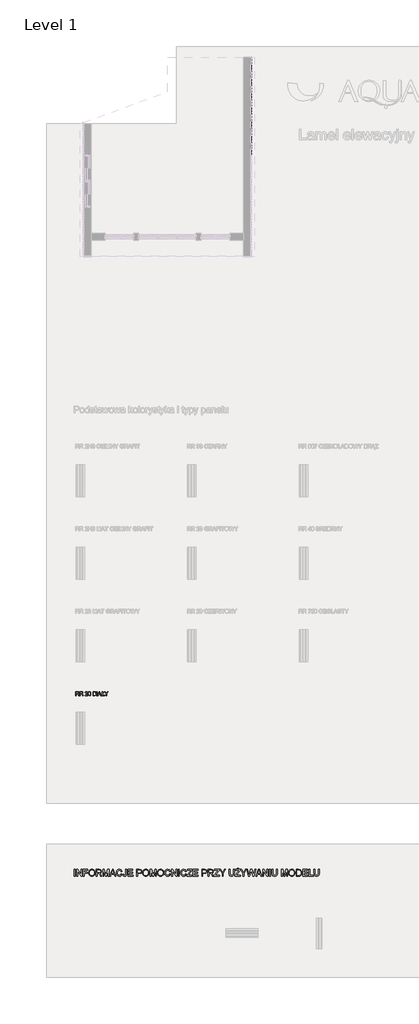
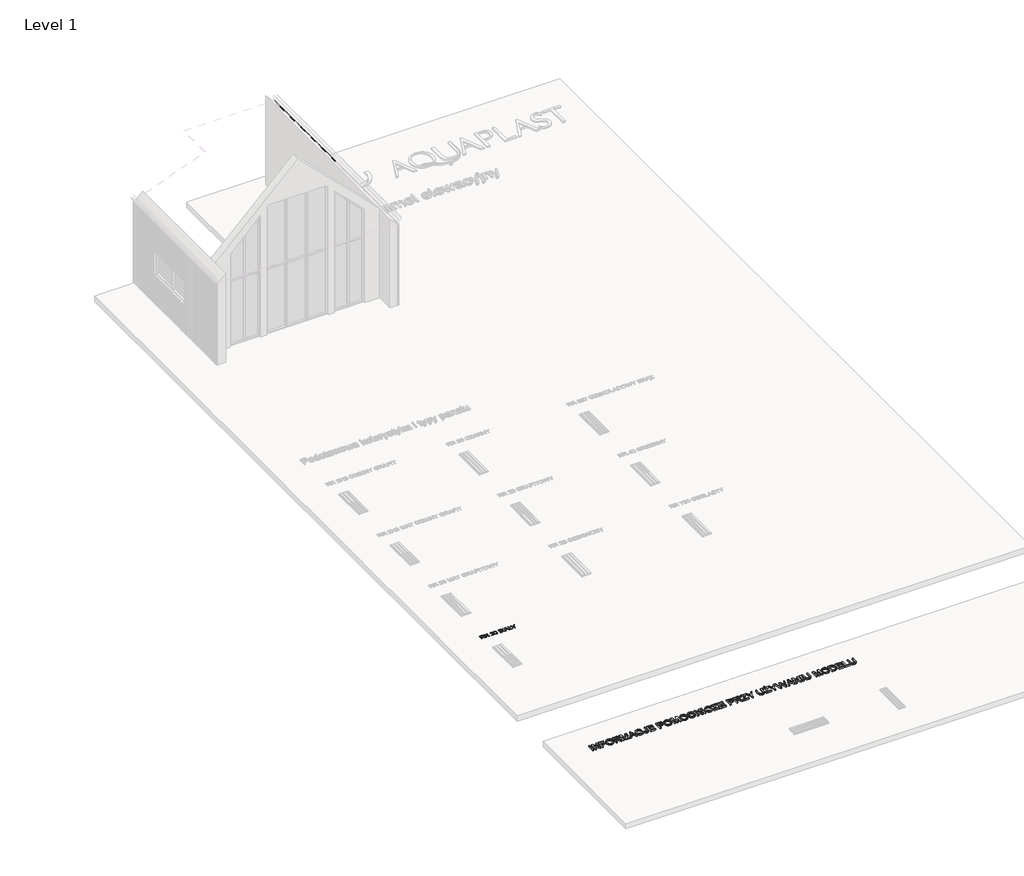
# One storey, part 3 of 9: 14 proxies.
"""IFC4 building model written with IfcOpenShell, lengths in millimetres."""

from ifc_helpers import new_model, si_unit, frame, origin, place, context, project, spatial, polyline, outline, extrude, transform, mapped, element, save
from components import specialty_equipment_518246cd, specialty_equipment_f18af2c6

model = new_model("IFC4")

# Units and contexts
model_context = context("Model", 3, world=origin())
ifc_project = project(units=[si_unit("LENGTHUNIT", "METRE", prefix="MILLI")], contexts=[model_context])

# Site, building, storey
site = spatial("IfcSite", under=ifc_project)
building = spatial("IfcBuilding", under=site)
storey = spatial("IfcBuildingStorey", under=building, Name="Level 1", Elevation=0.0)

# Proxies
placement = place(None, origin())
specialty_equipment_shape = specialty_equipment_518246cd(model_context)
element("IfcBuildingElementProxy", 1, Name="AQUAPLAST - Lamel elewacyjny : Lamel elewacyjny", ObjectType="AQUAPLAST - Lamel elewacyjny : Lamel elewacyjny", at=placement, inside=storey, context=model_context, shape_type="MappedRepresentation", body=[
    mapped(specialty_equipment_shape, transform((-2152.063183, 12666.3302878, 600.0), x_axis=(0.0, 1.0, 0.0), y_axis=(0.0, 0.0, 1.0), z_axis=(1.0, 0.0, 0.0))),
])
element("IfcBuildingElementProxy", 2, Name="AQUAPLAST - Lamel elewacyjny : Lamel elewacyjny", ObjectType="AQUAPLAST - Lamel elewacyjny : Lamel elewacyjny", at=placement, inside=storey, context=model_context, shape_type="MappedRepresentation", body=[
    mapped(specialty_equipment_shape, transform((-2152.063183, 12986.3302878, 600.0), x_axis=(0.0, 1.0, 0.0), y_axis=(0.0, 0.0, 1.0), z_axis=(1.0, 0.0, 0.0))),
])
element("IfcBuildingElementProxy", 3, Name="AQUAPLAST - Lamel elewacyjny : Lamel elewacyjny", ObjectType="AQUAPLAST - Lamel elewacyjny : Lamel elewacyjny", at=placement, inside=storey, context=model_context, shape_type="MappedRepresentation", body=[
    mapped(specialty_equipment_shape, transform((-2152.063183, 13306.3302878, 600.0), x_axis=(0.0, 1.0, 0.0), y_axis=(0.0, 0.0, 1.0), z_axis=(1.0, 0.0, 0.0))),
])
element("IfcBuildingElementProxy", 4, Name="AQUAPLAST - Lamel elewacyjny : Lamel elewacyjny", ObjectType="AQUAPLAST - Lamel elewacyjny : Lamel elewacyjny", at=placement, inside=storey, context=model_context, shape_type="MappedRepresentation", body=[
    mapped(specialty_equipment_shape, transform((-2152.063183, 13626.3302878, 600.0), x_axis=(0.0, 1.0, 0.0), y_axis=(0.0, 0.0, 1.0), z_axis=(1.0, 0.0, 0.0))),
])
element("IfcBuildingElementProxy", 5, Name="AQUAPLAST - Lamel elewacyjny : Lamel elewacyjny", ObjectType="AQUAPLAST - Lamel elewacyjny : Lamel elewacyjny", at=placement, inside=storey, context=model_context, shape_type="MappedRepresentation", body=[
    mapped(specialty_equipment_shape, transform((-2152.063183, 13946.3302878, 600.0), x_axis=(0.0, 1.0, 0.0), y_axis=(0.0, 0.0, 1.0), z_axis=(1.0, 0.0, 0.0))),
])
element("IfcBuildingElementProxy", 6, Name="AQUAPLAST - Lamel elewacyjny : Lamel elewacyjny", ObjectType="AQUAPLAST - Lamel elewacyjny : Lamel elewacyjny", at=placement, inside=storey, context=model_context, shape_type="MappedRepresentation", body=[
    mapped(specialty_equipment_shape, transform((-2152.063183, 14266.3302878, 600.0), x_axis=(0.0, 1.0, 0.0), y_axis=(0.0, 0.0, 1.0), z_axis=(1.0, 0.0, 0.0))),
])
element("IfcBuildingElementProxy", 7, Name="AQUAPLAST - Lamel elewacyjny : Lamel elewacyjny", ObjectType="AQUAPLAST - Lamel elewacyjny : Lamel elewacyjny", at=placement, inside=storey, context=model_context, shape_type="MappedRepresentation", body=[
    mapped(specialty_equipment_shape, transform((-2152.063183, 14586.3302878, 600.0), x_axis=(0.0, 1.0, 0.0), y_axis=(0.0, 0.0, 1.0), z_axis=(1.0, 0.0, 0.0))),
])
element("IfcBuildingElementProxy", 8, Name="AQUAPLAST - Lamel elewacyjny : Lamel elewacyjny", ObjectType="AQUAPLAST - Lamel elewacyjny : Lamel elewacyjny", at=placement, inside=storey, context=model_context, shape_type="MappedRepresentation", body=[
    mapped(specialty_equipment_shape, transform((-2152.063183, 14906.3302878, 600.0), x_axis=(0.0, 1.0, 0.0), y_axis=(0.0, 0.0, 1.0), z_axis=(1.0, 0.0, 0.0))),
])
element("IfcBuildingElementProxy", 9, Name="AQUAPLAST - Lamel elewacyjny : Lamel elewacyjny", ObjectType="AQUAPLAST - Lamel elewacyjny : Lamel elewacyjny", at=placement, inside=storey, context=model_context, shape_type="MappedRepresentation", body=[
    mapped(specialty_equipment_shape, transform((-2152.063183, 15226.3302878, 600.0), x_axis=(0.0, 1.0, 0.0), y_axis=(0.0, 0.0, 1.0), z_axis=(1.0, 0.0, 0.0))),
])
element("IfcBuildingElementProxy", 10, Name="AQUAPLAST - Lamel elewacyjny : Lamel elewacyjny", ObjectType="AQUAPLAST - Lamel elewacyjny : Lamel elewacyjny", at=placement, inside=storey, context=model_context, shape_type="MappedRepresentation", body=[
    mapped(specialty_equipment_shape, transform((-2152.063183, 15546.3302878, 600.0), x_axis=(0.0, 1.0, 0.0), y_axis=(0.0, 0.0, 1.0), z_axis=(1.0, 0.0, 0.0))),
])
element("IfcBuildingElementProxy", 11, Name="AQUAPLAST - Lamel elewacyjny : Lamel elewacyjny", ObjectType="AQUAPLAST - Lamel elewacyjny : Lamel elewacyjny", at=placement, inside=storey, context=model_context, shape_type="MappedRepresentation", body=[
    mapped(specialty_equipment_shape, transform((-2152.063183, 15866.3302878, 600.0), x_axis=(0.0, 1.0, 0.0), y_axis=(0.0, 0.0, 1.0), z_axis=(1.0, 0.0, 0.0))),
])
specialty_equipment_2_shape = specialty_equipment_f18af2c6(model_context)
element("IfcBuildingElementProxy", 12, Name="AQUAPLAST - Lamel elewacyjny : Lamel elewacyjny", ObjectType="AQUAPLAST - Lamel elewacyjny : Lamel elewacyjny", at=placement, inside=storey, context=model_context, shape_type="MappedRepresentation", body=[
    mapped(specialty_equipment_2_shape, transform((-2152.063183, 16186.3302878, 600.0), x_axis=(0.0, 1.0, 0.0), y_axis=(0.0, 0.0, 1.0), z_axis=(1.0, 0.0, 0.0))),
])
element("IfcBuildingElementProxy", 13, Name="150", ObjectType="150", at=placement, inside=storey, context=model_context, shape_type="SweptSolid", body=[
    extrude(outline(polyline([(-8736.4118342, -7835.6514112), (-8736.4118342, -7684.966946), (-8671.4806621, -7684.966946), (-8641.3327325, -7689.032042), (-8632.0529092, -7694.6606365), (-8624.8516192, -7703.416228), (-8620.2301016, -7714.2733454), (-8618.6895957, -7726.2065176), (-8621.2417771, -7741.0505561), (-8628.8983211, -7753.3562089), (-8641.8891541, -7762.3785148), (-8660.4442022, -7767.3725129), (-8649.7388361, -7775.4291286), (-8634.4717333, -7794.8165097), (-8609.3453931, -7835.6514112), (-8631.2343718, -7835.6514112), (-8650.8424821, -7804.4182298), (-8665.0059389, -7783.7432617), (-8674.9571469, -7773.9759947), (-8683.9150735, -7770.3891452), (-8694.8411687, -7769.7269577), (-8717.576276, -7769.7269577), (-8717.576276, -7835.6514112), (-8736.4118342, -7835.6514112)]), holes=[polyline([(-8717.576276, -7750.8913995), (-8675.4169994, -7750.8913995), (-8653.9142968, -7748.224255), (-8641.7006145, -7739.6893927), (-8637.5251539, -7726.9054934), (-8639.5163152, -7717.7176406), (-8645.4897991, -7710.3140154), (-8655.7675023, -7705.4303819), (-8670.6713217, -7703.8025041), (-8717.576276, -7703.8025041), (-8717.576276, -7750.8913995)])]), frame((0.0, 0.0, 600.0), z_axis=(0.0, 0.0, 1.0), x_axis=(1.0, 0.0, 0.0)), (0.0, 0.0, 1.0), 10.0),
    extrude(outline(polyline([(-8585.727369, -7835.6514112), (-8585.727369, -7684.966946), (-8520.7961968, -7684.966946), (-8490.6482673, -7689.032042), (-8481.368444, -7694.6606365), (-8474.1671539, -7703.416228), (-8469.5456364, -7714.2733454), (-8468.0051305, -7726.2065176), (-8470.5573119, -7741.0505561), (-8478.2138559, -7753.3562089), (-8491.2046888, -7762.3785148), (-8509.759737, -7767.3725129), (-8499.0543709, -7775.4291286), (-8483.7872681, -7794.8165097), (-8458.6609278, -7835.6514112), (-8480.5499066, -7835.6514112), (-8500.1580169, -7804.4182298), (-8514.3214737, -7783.7432617), (-8524.2726817, -7773.9759947), (-8533.2306083, -7770.3891452), (-8544.1567035, -7769.7269577), (-8566.8918108, -7769.7269577), (-8566.8918108, -7835.6514112), (-8585.727369, -7835.6514112)]), holes=[polyline([(-8566.8918108, -7750.8913995), (-8524.7325342, -7750.8913995), (-8503.2298316, -7748.224255), (-8491.0161493, -7739.6893927), (-8486.8406887, -7726.9054934), (-8488.83185, -7717.7176406), (-8494.8053339, -7710.3140154), (-8505.0830371, -7705.4303819), (-8519.9868564, -7703.8025041), (-8566.8918108, -7703.8025041), (-8566.8918108, -7750.8913995)])]), frame((0.0, 0.0, 600.0), z_axis=(0.0, 0.0, 1.0), x_axis=(1.0, 0.0, 0.0)), (0.0, 0.0, 1.0), 10.0),
    extrude(outline(polyline([(-8286.7128833, -7816.815853), (-8286.7128833, -7835.6514112), (-8385.5995636, -7835.6514112), (-8383.5762126, -7822.6651768), (-8372.1166885, -7802.6707903), (-8348.5170585, -7780.8369939), (-8316.0146842, -7749.4566597), (-8309.9308357, -7738.6409291), (-8307.9028862, -7728.119504), (-8309.8204711, -7718.6879293), (-8315.5732258, -7710.8474443), (-8324.4161893, -7705.5637392), (-8335.6044005, -7703.8025041), (-8347.3536317, -7705.5223524), (-8356.4817037, -7710.6818974), (-8362.3724141, -7718.8764689), (-8364.4095607, -7729.7013966), (-8383.2451188, -7727.3469518), (-8378.6787836, -7709.127596), (-8368.8057505, -7695.8194648), (-8354.1410545, -7687.6800757), (-8335.1997303, -7684.966946), (-8316.1204503, -7687.9835783), (-8301.4833454, -7697.0334754), (-8292.1713324, -7710.5531387), (-8289.0673281, -7726.9790698), (-8292.4150542, -7744.8397407), (-8303.5434846, -7763.3074168), (-8330.5276289, -7789.1143388), (-8352.1958784, -7807.2325271), (-8360.6939525, -7816.815853), (-8286.7128833, -7816.815853)])), frame((0.0, 0.0, 600.0), z_axis=(0.0, 0.0, 1.0), x_axis=(1.0, 0.0, 0.0)), (0.0, 0.0, 1.0), 10.0),
    extrude(outline(polyline([(-8267.8773251, -7761.5231892), (-8266.4931691, -7737.4039259), (-8262.3407011, -7718.168296), (-8255.4613078, -7703.5219941), (-8245.8963759, -7693.1707145), (-8233.5769276, -7687.0178881), (-8218.433985, -7684.966946), (-8196.4346417, -7689.8229883), (-8181.2411153, -7703.8208982), (-8172.4119474, -7726.1145471), (-8168.9906448, -7761.5231892), (-8170.3610053, -7785.5044967), (-8174.4720866, -7804.6941413), (-8181.3100932, -7819.3542388), (-8190.8612295, -7829.7469052), (-8203.2082689, -7835.9411183), (-8218.433985, -7838.005856), (-8238.0053071, -7834.4190065), (-8252.8677397, -7823.6584581), (-8264.1249288, -7798.1734329), (-8267.8773251, -7761.5231892)]), holes=[polyline([(-8249.041767, -7761.486401), (-8246.834475, -7791.1146971), (-8240.2125991, -7808.2625966), (-8230.3533616, -7816.4433725), (-8218.433985, -7819.1702978), (-8206.5146083, -7816.4341755), (-8196.6553709, -7808.2258084), (-8190.033495, -7791.0687119), (-8187.826203, -7761.486401), (-8189.9599186, -7732.5248909), (-8196.3610653, -7715.2436342), (-8206.2019087, -7706.6627866), (-8218.6547142, -7703.8025041), (-8230.4453321, -7706.3224958), (-8239.9182935, -7713.8824708), (-8246.7608986, -7732.2397823), (-8249.041767, -7761.486401)])]), frame((0.0, 0.0, 600.0), z_axis=(0.0, 0.0, 1.0), x_axis=(1.0, 0.0, 0.0)), (0.0, 0.0, 1.0), 10.0),
    extrude(outline(polyline([(-8086.5850779, -7835.6514112), (-8086.5850779, -7684.966946), (-8029.0851221, -7684.966946), (-8000.9237553, -7689.399924), (-7991.459991, -7695.02392), (-7984.2954892, -7703.0299519), (-7978.2806185, -7722.3069685), (-7983.338996, -7739.9101219), (-7998.6244929, -7753.2458443), (-7987.9513165, -7758.8192565), (-7980.0648462, -7767.2989365), (-7975.1950083, -7778.1238642), (-7973.571729, -7790.7330196), (-7978.004707, -7810.9849234), (-7988.9859846, -7825.4058976), (-8005.3751275, -7833.0578431), (-8029.5265805, -7835.6514112), (-8086.5850779, -7835.6514112)]), holes=[polyline([(-8067.7495198, -7746.18251), (-8033.3525532, -7746.18251), (-8013.2661963, -7744.5638292), (-8001.1812727, -7737.5924654), (-7997.1161767, -7725.3236008), (-8000.9053612, -7713.0363422), (-8011.7578801, -7705.7706728), (-8035.9645154, -7703.8025041), (-8067.7495198, -7703.8025041), (-8067.7495198, -7746.18251)]), polyline([(-8067.7495198, -7816.815853), (-8029.1219103, -7816.815853), (-8015.1423945, -7816.080089), (-8003.3149883, -7811.9782048), (-7995.4791018, -7803.6088894), (-7992.4072872, -7790.9169606), (-7996.0125307, -7776.2752572), (-8007.6927841, -7767.5380598), (-8030.9613203, -7765.0180681), (-8067.7495198, -7765.0180681), (-8067.7495198, -7816.815853)])]), frame((0.0, 0.0, 600.0), z_axis=(0.0, 0.0, 1.0), x_axis=(1.0, 0.0, 0.0)), (0.0, 0.0, 1.0), 10.0),
    extrude(outline(polyline([(-7945.3183918, -7835.6514112), (-7945.3183918, -7684.966946), (-7926.4828336, -7684.966946), (-7926.4828336, -7835.6514112), (-7945.3183918, -7835.6514112)])), frame((0.0, 0.0, 600.0), z_axis=(0.0, 0.0, 1.0), x_axis=(1.0, 0.0, 0.0)), (0.0, 0.0, 1.0), 10.0),
    extrude(outline(polyline([(-7906.3229003, -7835.6514112), (-7846.1741941, -7684.966946), (-7830.1345391, -7684.966946), (-7770.0226211, -7835.6514112), (-7789.925037, -7835.6514112), (-7807.1419144, -7788.5625158), (-7869.2403952, -7788.5625158), (-7886.4572725, -7835.6514112), (-7906.3229003, -7835.6514112)]), holes=[polyline([(-7862.3242137, -7769.7269577), (-7814.0213077, -7769.7269577), (-7827.6329415, -7732.6812407), (-7838.1911548, -7703.8025041), (-7847.5721457, -7729.4438792), (-7862.3242137, -7769.7269577)])]), frame((0.0, 0.0, 600.0), z_axis=(0.0, 0.0, 1.0), x_axis=(1.0, 0.0, 0.0)), (0.0, 0.0, 1.0), 10.0),
    extrude(outline(polyline([(-7747.5450312, -7776.0177398), (-7764.0261446, -7789.7397382), (-7764.0261446, -7770.90418), (-7747.5450312, -7757.1821816), (-7747.5450312, -7684.966946), (-7728.709473, -7684.966946), (-7728.709473, -7741.4736204), (-7693.3928015, -7712.0430608), (-7693.3928015, -7730.878619), (-7728.709473, -7760.3091786), (-7728.709473, -7816.815853), (-7653.3672404, -7816.815853), (-7653.3672404, -7835.6514112), (-7747.5450312, -7835.6514112), (-7747.5450312, -7776.0177398)])), frame((0.0, 0.0, 600.0), z_axis=(0.0, 0.0, 1.0), x_axis=(1.0, 0.0, 0.0)), (0.0, 0.0, 1.0), 10.0),
    extrude(outline(polyline([(-7592.1516764, -7835.6514112), (-7592.1516764, -7771.823885), (-7651.0127956, -7684.966946), (-7628.8295113, -7684.966946), (-7597.4123889, -7731.3568656), (-7581.3359457, -7755.048466), (-7565.1859262, -7729.6646084), (-7536.6750715, -7684.966946), (-7514.454999, -7684.966946), (-7573.3161183, -7771.823885), (-7573.3161183, -7835.6514112), (-7592.1516764, -7835.6514112)])), frame((0.0, 0.0, 600.0), z_axis=(0.0, 0.0, 1.0), x_axis=(1.0, 0.0, 0.0)), (0.0, 0.0, 1.0), 10.0),
])
element("IfcBuildingElementProxy", 14, Name="250", ObjectType="250", at=placement, inside=storey, context=model_context, shape_type="SweptSolid", body=[
    extrude(outline(polyline([(-8793.2713947, -14626.8895255), (-8793.2713947, -14375.7487501), (-8761.8787978, -14375.7487501), (-8761.8787978, -14626.8895255), (-8793.2713947, -14626.8895255)])), frame((0.0, 0.0, 600.0), z_axis=(0.0, 0.0, 1.0), x_axis=(1.0, 0.0, 0.0)), (0.0, 0.0, 1.0), 50.0),
    extrude(outline(polyline([(-8699.0936039, -14626.8895255), (-8699.0936039, -14375.7487501), (-8665.493715, -14375.7487501), (-8534.2824701, -14574.7115958), (-8534.2824701, -14375.7487501), (-8502.8898732, -14375.7487501), (-8502.8898732, -14626.8895255), (-8536.4897621, -14626.8895255), (-8667.701007, -14427.8653661), (-8667.701007, -14626.8895255), (-8699.0936039, -14626.8895255)])), frame((0.0, 0.0, 600.0), z_axis=(0.0, 0.0, 1.0), x_axis=(1.0, 0.0, 0.0)), (0.0, 0.0, 1.0), 50.0),
    extrude(outline(polyline([(-8447.9528286, -14626.8895255), (-8447.9528286, -14375.7487501), (-8279.2176201, -14375.7487501), (-8279.2176201, -14407.141347), (-8416.5602316, -14407.141347), (-8416.5602316, -14481.6987647), (-8298.8379932, -14481.6987647), (-8298.8379932, -14513.0913616), (-8416.5602316, -14513.0913616), (-8416.5602316, -14626.8895255), (-8447.9528286, -14626.8895255)])), frame((0.0, 0.0, 600.0), z_axis=(0.0, 0.0, 1.0), x_axis=(1.0, 0.0, 0.0)), (0.0, 0.0, 1.0), 50.0),
    extrude(outline(polyline([(-8247.8250232, -14504.6300758), (-8245.7326943, -14475.1726914), (-8239.4557078, -14449.0952229), (-8228.9940635, -14426.3976702), (-8214.3477616, -14407.0800334), (-8196.3943538, -14391.6558143), (-8176.011392, -14380.638515), (-8153.1988762, -14374.0281354), (-8127.9568064, -14371.8246755), (-8095.0160394, -14375.9633479), (-8065.4781809, -14388.3793653), (-8040.9527146, -14408.1990078), (-8023.0491241, -14434.5485557), (-8012.1046348, -14466.1557504), (-8008.4564716, -14501.7483335), (-8012.29624, -14537.8160974), (-8023.8155449, -14569.8678162), (-8042.3782573, -14596.2633494), (-8067.3482477, -14615.3625563), (-8096.6331874, -14626.9508392), (-8128.1407474, -14630.8136001), (-8161.5873521, -14626.5446361), (-8191.2938232, -14613.7377442), (-8215.7579759, -14593.5502197), (-8233.4776254, -14567.1393581), (-8244.2381737, -14536.7507725), (-8247.8250232, -14504.6300758)]), holes=[polyline([(-8216.4324263, -14504.9366441), (-8214.8631796, -14525.7488015), (-8210.1554397, -14544.2233755), (-8202.3092065, -14560.3603659), (-8191.3244801, -14574.1597728), (-8177.9715133, -14585.2115611), (-8163.0205591, -14593.1056956), (-8146.4716175, -14597.8421763), (-8128.3246884, -14599.4210032), (-8109.8673589, -14597.8268479), (-8093.12298, -14593.0443819), (-8078.0915516, -14585.0736054), (-8064.7730737, -14573.9145182), (-8053.8688215, -14559.8238713), (-8046.0800699, -14543.0584158), (-8041.4068189, -14523.6181517), (-8039.8490686, -14501.5030788), (-8042.516213, -14473.7126597), (-8050.5176464, -14449.6930311), (-8063.6464351, -14430.0496654), (-8081.6956455, -14415.3880351), (-8103.4696611, -14406.2599631), (-8127.7728654, -14403.2172724), (-8161.5413669, -14409.0803917), (-8190.2514909, -14426.6697496), (-8201.7056501, -14440.3561095), (-8209.8871924, -14457.9627118), (-8214.7961178, -14479.4895567), (-8216.4324263, -14504.9366441)])]), frame((0.0, 0.0, 600.0), z_axis=(0.0, 0.0, 1.0), x_axis=(1.0, 0.0, 0.0)), (0.0, 0.0, 1.0), 50.0),
    extrude(outline(polyline([(-7965.2916509, -14626.8895255), (-7965.2916509, -14375.7487501), (-7857.0730306, -14375.7487501), (-7827.9873604, -14377.4425401), (-7806.8264815, -14382.5239102), (-7791.3601092, -14391.9049011), (-7779.3579592, -14406.4975535), (-7771.6554299, -14424.5927492), (-7769.0879201, -14444.4813695), (-7773.3415557, -14469.2214337), (-7786.1024624, -14489.7308549), (-7807.7538507, -14504.7680315), (-7838.6789309, -14513.0913616), (-7820.8366541, -14526.5190545), (-7795.3914828, -14558.8313564), (-7753.514249, -14626.8895255), (-7789.9958802, -14626.8895255), (-7822.6760641, -14574.8342232), (-7846.2818254, -14540.375943), (-7862.8671721, -14524.0971647), (-7877.7970497, -14518.1190822), (-7896.0072085, -14517.0154363), (-7933.899054, -14517.0154363), (-7933.899054, -14626.8895255), (-7965.2916509, -14626.8895255)]), holes=[polyline([(-7933.899054, -14485.6228393), (-7863.6335929, -14485.6228393), (-7827.7957552, -14481.1775986), (-7816.0082029, -14475.3987856), (-7807.4396181, -14466.9528281), (-7802.2202923, -14456.7364385), (-7800.480517, -14445.6463292), (-7803.7991192, -14430.3332411), (-7813.7549257, -14417.9938659), (-7830.8844311, -14409.8544767), (-7855.72413, -14407.141347), (-7933.899054, -14407.141347), (-7933.899054, -14485.6228393)])]), frame((0.0, 0.0, 600.0), z_axis=(0.0, 0.0, 1.0), x_axis=(1.0, 0.0, 0.0)), (0.0, 0.0, 1.0), 50.0),
    extrude(outline(polyline([(-7714.1508755, -14626.8895255), (-7714.1508755, -14375.7487501), (-7660.3174769, -14375.7487501), (-7608.8139976, -14552.7613035), (-7598.3906744, -14589.733444), (-7587.1702735, -14549.6956202), (-7536.6478128, -14375.7487501), (-7482.6304732, -14375.7487501), (-7482.6304732, -14626.8895255), (-7514.0230701, -14626.8895255), (-7514.0230701, -14407.141347), (-7577.1148323, -14626.8895255), (-7619.6052027, -14626.8895255), (-7682.7582786, -14407.141347), (-7682.7582786, -14626.8895255), (-7714.1508755, -14626.8895255)])), frame((0.0, 0.0, 600.0), z_axis=(0.0, 0.0, 1.0), x_axis=(1.0, 0.0, 0.0)), (0.0, 0.0, 1.0), 50.0),
    extrude(outline(polyline([(-7456.8787335, -14626.8895255), (-7356.6308899, -14375.7487501), (-7329.8981315, -14375.7487501), (-7229.7116015, -14626.8895255), (-7262.8822948, -14626.8895255), (-7291.5770904, -14548.4080332), (-7395.0745584, -14548.4080332), (-7423.769354, -14626.8895255), (-7456.8787335, -14626.8895255)]), holes=[polyline([(-7383.5475892, -14517.0154363), (-7303.0427459, -14517.0154363), (-7325.7288023, -14455.2725747), (-7343.3258244, -14407.141347), (-7358.9608092, -14449.8769721), (-7383.5475892, -14517.0154363)])]), frame((0.0, 0.0, 600.0), z_axis=(0.0, 0.0, 1.0), x_axis=(1.0, 0.0, 0.0)), (0.0, 0.0, 1.0), 50.0),
    extrude(outline(polyline([(-7019.5896686, -14537.616828), (-6988.1970717, -14545.7102319), (-7002.6824253, -14582.2914978), (-7025.4144669, -14609.0165919), (-7055.2742221, -14625.364348), (-7091.1427167, -14630.8136001), (-7127.55537, -14626.6902561), (-7156.4724277, -14614.320224), (-7178.6373179, -14594.1326995), (-7194.7934688, -14566.5568783), (-7204.6573048, -14534.1372775), (-7207.9452501, -14499.4184142), (-7204.2281091, -14462.7988272), (-7193.0766862, -14431.1763041), (-7175.073461, -14405.5548559), (-7150.8009136, -14386.9384941), (-7122.0141474, -14375.6031302), (-7090.4682663, -14371.8246755), (-7056.0483072, -14376.7144403), (-7027.591102, -14391.3837349), (-7005.985699, -14414.9281826), (-6992.1211463, -14446.4434069), (-7023.5137432, -14453.9236741), (-7034.3969189, -14431.0306841), (-7049.2654829, -14415.3267214), (-7068.3033761, -14406.2446347), (-7091.6945397, -14403.2172724), (-7118.6572242, -14406.5741956), (-7140.806786, -14416.6449652), (-7157.6143947, -14432.3719205), (-7168.5512198, -14452.6974008), (-7174.5522949, -14475.6746971), (-7176.5526532, -14499.3571005), (-7174.1844129, -14528.3584644), (-7167.0796918, -14553.4357538), (-7154.9702428, -14573.6309425), (-7137.5878186, -14587.9860045), (-7116.7488364, -14596.5622535), (-7094.2697136, -14599.4210032), (-7068.0657857, -14595.5275854), (-7046.2304564, -14583.847332), (-7029.7447445, -14564.5028705), (-7019.5896686, -14537.616828)])), frame((0.0, 0.0, 600.0), z_axis=(0.0, 0.0, 1.0), x_axis=(1.0, 0.0, 0.0)), (0.0, 0.0, 1.0), 50.0),
    extrude(outline(polyline([(-6960.7285494, -14556.3788097), (-6929.3359525, -14552.3321078), (-6926.0709998, -14575.1561199), (-6918.6060609, -14589.4268756), (-6907.2017191, -14596.9224713), (-6892.1185573, -14599.4210032), (-6880.5226102, -14598.0031247), (-6870.6281174, -14593.7494891), (-6862.994566, -14587.0509711), (-6858.1814432, -14578.2984453), (-6854.7785348, -14547.1817599), (-6854.7785348, -14375.7487501), (-6823.3859379, -14375.7487501), (-6823.3859379, -14546.6299369), (-6825.2789973, -14574.5813043), (-6830.9581756, -14595.4049581), (-6840.7530337, -14610.6184114), (-6854.9931326, -14621.7391776), (-6872.8737304, -14628.5449945), (-6893.5900853, -14630.8136001), (-6922.6067776, -14626.1307689), (-6943.9286049, -14612.0822752), (-6956.8657884, -14588.7907464), (-6960.7285494, -14556.3788097)])), frame((0.0, 0.0, 600.0), z_axis=(0.0, 0.0, 1.0), x_axis=(1.0, 0.0, 0.0)), (0.0, 0.0, 1.0), 50.0),
    extrude(outline(polyline([(-6768.4488932, -14626.8895255), (-6768.4488932, -14375.7487501), (-6587.9414609, -14375.7487501), (-6587.9414609, -14407.141347), (-6737.0562963, -14407.141347), (-6737.0562963, -14481.6987647), (-6595.7896102, -14481.6987647), (-6595.7896102, -14513.0913616), (-6737.0562963, -14513.0913616), (-6737.0562963, -14595.4969286), (-6584.0173863, -14595.4969286), (-6584.0173863, -14626.8895255), (-6768.4488932, -14626.8895255)])), frame((0.0, 0.0, 600.0), z_axis=(0.0, 0.0, 1.0), x_axis=(1.0, 0.0, 0.0)), (0.0, 0.0, 1.0), 50.0),
    extrude(outline(polyline([(-6438.8266256, -14626.8895255), (-6438.8266256, -14375.7487501), (-6345.7524808, -14375.7487501), (-6308.2285173, -14378.1399831), (-6291.4975507, -14382.6082165), (-6277.7249685, -14389.8815501), (-6266.6348592, -14400.2895449), (-6257.9513113, -14414.1617618), (-6252.3411108, -14430.5248464), (-6250.471044, -14448.4054442), (-6255.5217573, -14478.0046164), (-6270.6738969, -14502.6680384), (-6282.8082546, -14512.3785903), (-6299.0084748, -14519.3146987), (-6319.2745574, -14523.4763638), (-6343.6065025, -14524.8635855), (-6407.4340286, -14524.8635855), (-6407.4340286, -14626.8895255), (-6438.8266256, -14626.8895255)]), holes=[polyline([(-6407.4340286, -14493.4709886), (-6341.7670925, -14493.4709886), (-6313.9306882, -14490.5892463), (-6295.5365884, -14481.9440194), (-6285.2818778, -14468.0718025), (-6281.863641, -14449.5090901), (-6283.8793277, -14435.406947), (-6289.926388, -14423.5120958), (-6299.2537294, -14414.5603006), (-6311.1102596, -14409.2873253), (-6342.5028565, -14407.141347), (-6407.4340286, -14407.141347), (-6407.4340286, -14493.4709886)])]), frame((0.0, 0.0, 600.0), z_axis=(0.0, 0.0, 1.0), x_axis=(1.0, 0.0, 0.0)), (0.0, 0.0, 1.0), 50.0),
    extrude(outline(polyline([(-6219.0784471, -14504.6300758), (-6216.9861183, -14475.1726914), (-6210.7091317, -14449.0952229), (-6200.2474875, -14426.3976702), (-6185.6011855, -14407.0800334), (-6167.6477778, -14391.6558143), (-6147.264816, -14380.638515), (-6124.4523002, -14374.0281354), (-6099.2102303, -14371.8246755), (-6066.2694634, -14375.9633479), (-6036.7316048, -14388.3793653), (-6012.2061385, -14408.1990078), (-5994.3025481, -14434.5485557), (-5983.3580587, -14466.1557504), (-5979.7098956, -14501.7483335), (-5983.5496639, -14537.8160974), (-5995.0689689, -14569.8678162), (-6013.6316812, -14596.2633494), (-6038.6016716, -14615.3625563), (-6067.8866113, -14626.9508392), (-6099.3941713, -14630.8136001), (-6132.8407761, -14626.5446361), (-6162.5472472, -14613.7377442), (-6187.0113999, -14593.5502197), (-6204.7310493, -14567.1393581), (-6215.4915977, -14536.7507725), (-6219.0784471, -14504.6300758)]), holes=[polyline([(-6187.6858502, -14504.9366441), (-6186.1166035, -14525.7488015), (-6181.4088636, -14544.2233755), (-6173.5626305, -14560.3603659), (-6162.577904, -14574.1597728), (-6149.2249372, -14585.2115611), (-6134.273983, -14593.1056956), (-6117.7250414, -14597.8421763), (-6099.5781123, -14599.4210032), (-6081.1207829, -14597.8268479), (-6064.3764039, -14593.0443819), (-6049.3449755, -14585.0736054), (-6036.0264977, -14573.9145182), (-6025.1222454, -14559.8238713), (-6017.3334938, -14543.0584158), (-6012.6602428, -14523.6181517), (-6011.1024925, -14501.5030788), (-6013.769637, -14473.7126597), (-6021.7710704, -14449.6930311), (-6034.8998591, -14430.0496654), (-6052.9490695, -14415.3880351), (-6074.723085, -14406.2599631), (-6099.0262893, -14403.2172724), (-6132.7947908, -14409.0803917), (-6161.5049149, -14426.6697496), (-6172.9590741, -14440.3561095), (-6181.1406164, -14457.9627118), (-6186.0495417, -14479.4895567), (-6187.6858502, -14504.9366441)])]), frame((0.0, 0.0, 600.0), z_axis=(0.0, 0.0, 1.0), x_axis=(1.0, 0.0, 0.0)), (0.0, 0.0, 1.0), 50.0),
    extrude(outline(polyline([(-5936.5450748, -14626.8895255), (-5936.5450748, -14375.7487501), (-5882.7116762, -14375.7487501), (-5831.2081969, -14552.7613035), (-5820.7848737, -14589.733444), (-5809.5644728, -14549.6956202), (-5759.0420121, -14375.7487501), (-5705.0246725, -14375.7487501), (-5705.0246725, -14626.8895255), (-5736.4172694, -14626.8895255), (-5736.4172694, -14407.141347), (-5799.5090316, -14626.8895255), (-5841.9994021, -14626.8895255), (-5905.1524779, -14407.141347), (-5905.1524779, -14626.8895255), (-5936.5450748, -14626.8895255)])), frame((0.0, 0.0, 600.0), z_axis=(0.0, 0.0, 1.0), x_axis=(1.0, 0.0, 0.0)), (0.0, 0.0, 1.0), 50.0),
    extrude(outline(polyline([(-5661.8598517, -14504.6300758), (-5659.7675229, -14475.1726914), (-5653.4905364, -14449.0952229), (-5643.0288921, -14426.3976702), (-5628.3825902, -14407.0800334), (-5610.4291824, -14391.6558143), (-5590.0462206, -14380.638515), (-5567.2337048, -14374.0281354), (-5541.991635, -14371.8246755), (-5509.050868, -14375.9633479), (-5479.5130095, -14388.3793653), (-5454.9875431, -14408.1990078), (-5437.0839527, -14434.5485557), (-5426.1394633, -14466.1557504), (-5422.4913002, -14501.7483335), (-5426.3310685, -14537.8160974), (-5437.8503735, -14569.8678162), (-5456.4130859, -14596.2633494), (-5481.3830763, -14615.3625563), (-5510.6680159, -14626.9508392), (-5542.175576, -14630.8136001), (-5575.6221807, -14626.5446361), (-5605.3286518, -14613.7377442), (-5629.7928045, -14593.5502197), (-5647.5124539, -14567.1393581), (-5658.2730023, -14536.7507725), (-5661.8598517, -14504.6300758)]), holes=[polyline([(-5630.4672548, -14504.9366441), (-5628.8980082, -14525.7488015), (-5624.1902683, -14544.2233755), (-5616.3440351, -14560.3603659), (-5605.3593087, -14574.1597728), (-5592.0063419, -14585.2115611), (-5577.0553876, -14593.1056956), (-5560.506446, -14597.8421763), (-5542.359517, -14599.4210032), (-5523.9021875, -14597.8268479), (-5507.1578086, -14593.0443819), (-5492.1263802, -14585.0736054), (-5478.8079023, -14573.9145182), (-5467.90365, -14559.8238713), (-5460.1148984, -14543.0584158), (-5455.4416475, -14523.6181517), (-5453.8838971, -14501.5030788), (-5456.5510416, -14473.7126597), (-5464.552475, -14449.6930311), (-5477.6812637, -14430.0496654), (-5495.7304741, -14415.3880351), (-5517.5044897, -14406.2599631), (-5541.807694, -14403.2172724), (-5575.5761955, -14409.0803917), (-5604.2863195, -14426.6697496), (-5615.7404787, -14440.3561095), (-5623.922021, -14457.9627118), (-5628.8309464, -14479.4895567), (-5630.4672548, -14504.9366441)])]), frame((0.0, 0.0, 600.0), z_axis=(0.0, 0.0, 1.0), x_axis=(1.0, 0.0, 0.0)), (0.0, 0.0, 1.0), 50.0),
    extrude(outline(polyline([(-5202.7431218, -14537.616828), (-5171.3505248, -14545.7102319), (-5185.8358784, -14582.2914978), (-5208.56792, -14609.0165919), (-5238.4276753, -14625.364348), (-5274.2961698, -14630.8136001), (-5310.7088231, -14626.6902561), (-5339.6258808, -14614.320224), (-5361.790771, -14594.1326995), (-5377.946922, -14566.5568783), (-5387.810758, -14534.1372775), (-5391.0987033, -14499.4184142), (-5387.3815623, -14462.7988272), (-5376.2301393, -14431.1763041), (-5358.2269142, -14405.5548559), (-5333.9543667, -14386.9384941), (-5305.1676006, -14375.6031302), (-5273.6217195, -14371.8246755), (-5239.2017603, -14376.7144403), (-5210.7445552, -14391.3837349), (-5189.1391522, -14414.9281826), (-5175.2745995, -14446.4434069), (-5206.6671964, -14453.9236741), (-5217.5503721, -14431.0306841), (-5232.418936, -14415.3267214), (-5251.4568293, -14406.2446347), (-5274.8479928, -14403.2172724), (-5301.8106774, -14406.5741956), (-5323.9602392, -14416.6449652), (-5340.7678478, -14432.3719205), (-5351.704673, -14452.6974008), (-5357.705748, -14475.6746971), (-5359.7061064, -14499.3571005), (-5357.337866, -14528.3584644), (-5350.233145, -14553.4357538), (-5338.123696, -14573.6309425), (-5320.7412717, -14587.9860045), (-5299.9022895, -14596.5622535), (-5277.4231668, -14599.4210032), (-5251.2192388, -14595.5275854), (-5229.3839096, -14583.847332), (-5212.8981977, -14564.5028705), (-5202.7431218, -14537.616828)])), frame((0.0, 0.0, 600.0), z_axis=(0.0, 0.0, 1.0), x_axis=(1.0, 0.0, 0.0)), (0.0, 0.0, 1.0), 50.0),
    extrude(outline(polyline([(-5128.1857041, -14626.8895255), (-5128.1857041, -14375.7487501), (-5094.5858152, -14375.7487501), (-4963.3745702, -14574.7115958), (-4963.3745702, -14375.7487501), (-4931.9819733, -14375.7487501), (-4931.9819733, -14626.8895255), (-4965.5818622, -14626.8895255), (-5096.7931072, -14427.8653661), (-5096.7931072, -14626.8895255), (-5128.1857041, -14626.8895255)])), frame((0.0, 0.0, 600.0), z_axis=(0.0, 0.0, 1.0), x_axis=(1.0, 0.0, 0.0)), (0.0, 0.0, 1.0), 50.0),
    extrude(outline(polyline([(-4873.1208541, -14626.8895255), (-4873.1208541, -14375.7487501), (-4841.7282572, -14375.7487501), (-4841.7282572, -14626.8895255), (-4873.1208541, -14626.8895255)])), frame((0.0, 0.0, 600.0), z_axis=(0.0, 0.0, 1.0), x_axis=(1.0, 0.0, 0.0)), (0.0, 0.0, 1.0), 50.0),
    extrude(outline(polyline([(-4602.3597056, -14537.616828), (-4570.9671087, -14545.7102319), (-4585.4524623, -14582.2914978), (-4608.1845039, -14609.0165919), (-4638.0442592, -14625.364348), (-4673.9127537, -14630.8136001), (-4710.325407, -14626.6902561), (-4739.2424647, -14614.320224), (-4761.4073549, -14594.1326995), (-4777.5635058, -14566.5568783), (-4787.4273418, -14534.1372775), (-4790.7152872, -14499.4184142), (-4786.9981462, -14462.7988272), (-4775.8467232, -14431.1763041), (-4757.8434981, -14405.5548559), (-4733.5709506, -14386.9384941), (-4704.7841845, -14375.6031302), (-4673.2383034, -14371.8246755), (-4638.8183442, -14376.7144403), (-4610.361139, -14391.3837349), (-4588.755736, -14414.9281826), (-4574.8911833, -14446.4434069), (-4606.2837803, -14453.9236741), (-4617.1669559, -14431.0306841), (-4632.0355199, -14415.3267214), (-4651.0734132, -14406.2446347), (-4674.4645767, -14403.2172724), (-4701.4272613, -14406.5741956), (-4723.576823, -14416.6449652), (-4740.3844317, -14432.3719205), (-4751.3212569, -14452.6974008), (-4757.3223319, -14475.6746971), (-4759.3226902, -14499.3571005), (-4756.9544499, -14528.3584644), (-4749.8497289, -14553.4357538), (-4737.7402799, -14573.6309425), (-4720.3578556, -14587.9860045), (-4699.5188734, -14596.5622535), (-4677.0397507, -14599.4210032), (-4650.8358227, -14595.5275854), (-4629.0004935, -14583.847332), (-4612.5147815, -14564.5028705), (-4602.3597056, -14537.616828)])), frame((0.0, 0.0, 600.0), z_axis=(0.0, 0.0, 1.0), x_axis=(1.0, 0.0, 0.0)), (0.0, 0.0, 1.0), 50.0),
    extrude(outline(polyline([(-4547.422661, -14626.8895255), (-4547.422661, -14594.3319689), (-4419.0318447, -14437.0011023), (-4394.6290057, -14407.141347), (-4531.7263626, -14407.141347), (-4531.7263626, -14375.7487501), (-4355.1430049, -14375.7487501), (-4355.1430049, -14407.141347), (-4495.673927, -14579.3101208), (-4508.9176789, -14595.4969286), (-4351.2189303, -14595.4969286), (-4351.2189303, -14626.8895255), (-4547.422661, -14626.8895255)])), frame((0.0, 0.0, 600.0), z_axis=(0.0, 0.0, 1.0), x_axis=(1.0, 0.0, 0.0)), (0.0, 0.0, 1.0), 50.0),
    extrude(outline(polyline([(-4315.9022587, -14626.8895255), (-4315.9022587, -14375.7487501), (-4135.3948264, -14375.7487501), (-4135.3948264, -14407.141347), (-4284.5096618, -14407.141347), (-4284.5096618, -14481.6987647), (-4143.2429757, -14481.6987647), (-4143.2429757, -14513.0913616), (-4284.5096618, -14513.0913616), (-4284.5096618, -14595.4969286), (-4131.4707518, -14595.4969286), (-4131.4707518, -14626.8895255), (-4315.9022587, -14626.8895255)])), frame((0.0, 0.0, 600.0), z_axis=(0.0, 0.0, 1.0), x_axis=(1.0, 0.0, 0.0)), (0.0, 0.0, 1.0), 50.0),
    extrude(outline(polyline([(-3986.279991, -14626.8895255), (-3986.279991, -14375.7487501), (-3893.2058463, -14375.7487501), (-3855.6818828, -14378.1399831), (-3838.9509162, -14382.6082165), (-3825.178334, -14389.8815501), (-3814.0882247, -14400.2895449), (-3805.4046768, -14414.1617618), (-3799.7944763, -14430.5248464), (-3797.9244095, -14448.4054442), (-3802.9751227, -14478.0046164), (-3818.1272624, -14502.6680384), (-3830.2616201, -14512.3785903), (-3846.4618403, -14519.3146987), (-3866.7279229, -14523.4763638), (-3891.059868, -14524.8635855), (-3954.8873941, -14524.8635855), (-3954.8873941, -14626.8895255), (-3986.279991, -14626.8895255)]), holes=[polyline([(-3954.8873941, -14493.4709886), (-3889.220458, -14493.4709886), (-3861.3840537, -14490.5892463), (-3842.9899539, -14481.9440194), (-3832.7352433, -14468.0718025), (-3829.3170064, -14449.5090901), (-3831.3326932, -14435.406947), (-3837.3797535, -14423.5120958), (-3846.7070949, -14414.5603006), (-3858.5636251, -14409.2873253), (-3889.956222, -14407.141347), (-3954.8873941, -14407.141347), (-3954.8873941, -14493.4709886)])]), frame((0.0, 0.0, 600.0), z_axis=(0.0, 0.0, 1.0), x_axis=(1.0, 0.0, 0.0)), (0.0, 0.0, 1.0), 50.0),
    extrude(outline(polyline([(-3754.7595887, -14626.8895255), (-3754.7595887, -14375.7487501), (-3646.5409685, -14375.7487501), (-3617.4552983, -14377.4425401), (-3596.2944193, -14382.5239102), (-3580.8280471, -14391.9049011), (-3568.825897, -14406.4975535), (-3561.1233677, -14424.5927492), (-3558.555858, -14444.4813695), (-3562.8094936, -14469.2214337), (-3575.5704003, -14489.7308549), (-3597.2217885, -14504.7680315), (-3628.1468687, -14513.0913616), (-3610.304592, -14526.5190545), (-3584.8594206, -14558.8313564), (-3542.9821869, -14626.8895255), (-3579.463818, -14626.8895255), (-3612.144002, -14574.8342232), (-3635.7497633, -14540.375943), (-3652.3351099, -14524.0971647), (-3667.2649876, -14518.1190822), (-3685.4751463, -14517.0154363), (-3723.3669918, -14517.0154363), (-3723.3669918, -14626.8895255), (-3754.7595887, -14626.8895255)]), holes=[polyline([(-3723.3669918, -14485.6228393), (-3653.1015307, -14485.6228393), (-3617.2636931, -14481.1775986), (-3605.4761408, -14475.3987856), (-3596.907556, -14466.9528281), (-3591.6882302, -14456.7364385), (-3589.9484549, -14445.6463292), (-3593.2670571, -14430.3332411), (-3603.2228636, -14417.9938659), (-3620.352369, -14409.8544767), (-3645.1920679, -14407.141347), (-3723.3669918, -14407.141347), (-3723.3669918, -14485.6228393)])]), frame((0.0, 0.0, 600.0), z_axis=(0.0, 0.0, 1.0), x_axis=(1.0, 0.0, 0.0)), (0.0, 0.0, 1.0), 50.0),
    extrude(outline(polyline([(-3523.2391865, -14626.8895255), (-3523.2391865, -14594.3319689), (-3394.8483701, -14437.0011023), (-3370.4455311, -14407.141347), (-3507.542888, -14407.141347), (-3507.542888, -14375.7487501), (-3330.9595303, -14375.7487501), (-3330.9595303, -14407.141347), (-3471.4904525, -14579.3101208), (-3484.7342043, -14595.4969286), (-3327.0354557, -14595.4969286), (-3327.0354557, -14626.8895255), (-3523.2391865, -14626.8895255)])), frame((0.0, 0.0, 600.0), z_axis=(0.0, 0.0, 1.0), x_axis=(1.0, 0.0, 0.0)), (0.0, 0.0, 1.0), 50.0),
    extrude(outline(polyline([(-3221.0854411, -14626.8895255), (-3221.0854411, -14520.5103152), (-3319.1873065, -14375.7487501), (-3282.2151659, -14375.7487501), (-3229.8532953, -14453.0652828), (-3203.0592233, -14492.5512836), (-3176.142524, -14450.2448541), (-3128.624433, -14375.7487501), (-3091.5909788, -14375.7487501), (-3189.6928442, -14520.5103152), (-3189.6928442, -14626.8895255), (-3221.0854411, -14626.8895255)])), frame((0.0, 0.0, 600.0), z_axis=(0.0, 0.0, 1.0), x_axis=(1.0, 0.0, 0.0)), (0.0, 0.0, 1.0), 50.0),
    extrude(outline(polyline([(-2801.2094573, -14375.7487501), (-2769.8168603, -14375.7487501), (-2769.8168603, -14520.6329425), (-2771.9475102, -14554.5623924), (-2778.3394599, -14580.6896783), (-2790.2802963, -14600.8465459), (-2809.0576065, -14616.8647411), (-2834.7173756, -14627.3263854), (-2867.3055891, -14630.8136001), (-2899.1810311, -14627.7785736), (-2924.6645235, -14618.6734943), (-2943.7637304, -14603.8125945), (-2956.486316, -14583.5101069), (-2963.6370223, -14556.279175), (-2966.0205911, -14520.6329425), (-2966.0205911, -14375.7487501), (-2934.6279942, -14375.7487501), (-2934.6279942, -14519.5292966), (-2933.0798241, -14547.7412471), (-2928.4353139, -14567.3846128), (-2920.0200133, -14580.9885824), (-2907.1594719, -14591.0823446), (-2890.3901842, -14597.3363385), (-2870.248645, -14599.4210032), (-2838.3195535, -14595.2976591), (-2817.0896967, -14582.9276271), (-2810.1420919, -14572.7802154), (-2805.1795171, -14558.8313564), (-2801.2094573, -14519.5292966), (-2801.2094573, -14375.7487501)])), frame((0.0, 0.0, 600.0), z_axis=(0.0, 0.0, 1.0), x_axis=(1.0, 0.0, 0.0)), (0.0, 0.0, 1.0), 50.0),
    extrude(outline(polyline([(-2734.5001888, -14626.8895255), (-2734.5001888, -14594.3319689), (-2606.1093725, -14437.0011023), (-2581.7065335, -14407.141347), (-2718.8038903, -14407.141347), (-2718.8038903, -14375.7487501), (-2542.2205326, -14375.7487501), (-2542.2205326, -14407.141347), (-2682.7514548, -14579.3101208), (-2695.9952066, -14595.4969286), (-2538.296458, -14595.4969286), (-2538.296458, -14626.8895255), (-2734.5001888, -14626.8895255)])), frame((0.0, 0.0, 600.0), z_axis=(0.0, 0.0, 1.0), x_axis=(1.0, 0.0, 0.0)), (0.0, 0.0, 1.0), 50.0),
    extrude(outline(polyline([(-2648.1705473, -14360.0524516), (-2648.1705473, -14328.6598547), (-2616.7779503, -14328.6598547), (-2616.7779503, -14360.0524516), (-2648.1705473, -14360.0524516)])), frame((0.0, 0.0, 600.0), z_axis=(0.0, 0.0, 1.0), x_axis=(1.0, 0.0, 0.0)), (0.0, 0.0, 1.0), 50.0),
    extrude(outline(polyline([(-2432.3464434, -14626.8895255), (-2432.3464434, -14520.5103152), (-2530.4483088, -14375.7487501), (-2493.4761683, -14375.7487501), (-2441.1142976, -14453.0652828), (-2414.3202257, -14492.5512836), (-2387.4035263, -14450.2448541), (-2339.8854353, -14375.7487501), (-2302.8519811, -14375.7487501), (-2400.9538465, -14520.5103152), (-2400.9538465, -14626.8895255), (-2432.3464434, -14626.8895255)])), frame((0.0, 0.0, 600.0), z_axis=(0.0, 0.0, 1.0), x_axis=(1.0, 0.0, 0.0)), (0.0, 0.0, 1.0), 50.0),
    extrude(outline(polyline([(-2230.4405417, -14626.8895255), (-2298.9279065, -14375.7487501), (-2266.5542909, -14375.7487501), (-2226.8230354, -14540.8051386), (-2214.5603023, -14591.7567949), (-2201.4391778, -14546.6912505), (-2151.6524811, -14375.7487501), (-2104.9927814, -14375.7487501), (-2068.8177185, -14499.6636688), (-2053.3206895, -14545.6489182), (-2041.9010192, -14591.7567949), (-2030.006168, -14542.2766666), (-1989.9683442, -14375.7487501), (-1957.533415, -14375.7487501), (-2025.9594661, -14626.8895255), (-2059.559355, -14626.8895255), (-2119.8306885, -14433.1383414), (-2128.2306607, -14406.0990147), (-2137.6729653, -14438.6565713), (-2192.5486962, -14626.8895255), (-2230.4405417, -14626.8895255)])), frame((0.0, 0.0, 600.0), z_axis=(0.0, 0.0, 1.0), x_axis=(1.0, 0.0, 0.0)), (0.0, 0.0, 1.0), 50.0),
    extrude(outline(polyline([(-1955.326123, -14626.8895255), (-1855.0782793, -14375.7487501), (-1828.345521, -14375.7487501), (-1728.158991, -14626.8895255), (-1761.3296842, -14626.8895255), (-1790.0244798, -14548.4080332), (-1893.5219478, -14548.4080332), (-1922.2167434, -14626.8895255), (-1955.326123, -14626.8895255)]), holes=[polyline([(-1881.9949786, -14517.0154363), (-1801.4901354, -14517.0154363), (-1824.1761917, -14455.2725747), (-1841.7732138, -14407.141347), (-1857.4081986, -14449.8769721), (-1881.9949786, -14517.0154363)])]), frame((0.0, 0.0, 600.0), z_axis=(0.0, 0.0, 1.0), x_axis=(1.0, 0.0, 0.0)), (0.0, 0.0, 1.0), 50.0),
    extrude(outline(polyline([(-1694.6204158, -14626.8895255), (-1694.6204158, -14375.7487501), (-1661.0205269, -14375.7487501), (-1529.8092819, -14574.7115958), (-1529.8092819, -14375.7487501), (-1498.416685, -14375.7487501), (-1498.416685, -14626.8895255), (-1532.0165739, -14626.8895255), (-1663.2278188, -14427.8653661), (-1663.2278188, -14626.8895255), (-1694.6204158, -14626.8895255)])), frame((0.0, 0.0, 600.0), z_axis=(0.0, 0.0, 1.0), x_axis=(1.0, 0.0, 0.0)), (0.0, 0.0, 1.0), 50.0),
    extrude(outline(polyline([(-1439.5555658, -14626.8895255), (-1439.5555658, -14375.7487501), (-1408.1629688, -14375.7487501), (-1408.1629688, -14626.8895255), (-1439.5555658, -14626.8895255)])), frame((0.0, 0.0, 600.0), z_axis=(0.0, 0.0, 1.0), x_axis=(1.0, 0.0, 0.0)), (0.0, 0.0, 1.0), 50.0),
    extrude(outline(polyline([(-1180.5666412, -14375.7487501), (-1149.1740442, -14375.7487501), (-1149.1740442, -14520.6329425), (-1151.3046941, -14554.5623924), (-1157.6966438, -14580.6896783), (-1169.6374802, -14600.8465459), (-1188.4147904, -14616.8647411), (-1214.0745596, -14627.3263854), (-1246.662773, -14630.8136001), (-1278.538215, -14627.7785736), (-1304.0217074, -14618.6734943), (-1323.1209143, -14603.8125945), (-1335.8435, -14583.5101069), (-1342.9942062, -14556.279175), (-1345.377775, -14520.6329425), (-1345.377775, -14375.7487501), (-1313.9851781, -14375.7487501), (-1313.9851781, -14519.5292966), (-1312.437008, -14547.7412471), (-1307.7924978, -14567.3846128), (-1299.3771972, -14580.9885824), (-1286.5166558, -14591.0823446), (-1269.7473682, -14597.3363385), (-1249.6058289, -14599.4210032), (-1217.6767374, -14595.2976591), (-1196.4468806, -14582.9276271), (-1189.4992759, -14572.7802154), (-1184.536701, -14558.8313564), (-1180.5666412, -14519.5292966), (-1180.5666412, -14375.7487501)])), frame((0.0, 0.0, 600.0), z_axis=(0.0, 0.0, 1.0), x_axis=(1.0, 0.0, 0.0)), (0.0, 0.0, 1.0), 50.0),
    extrude(outline(polyline([(-996.1351343, -14626.8895255), (-996.1351343, -14375.7487501), (-942.3017356, -14375.7487501), (-890.7982563, -14552.7613035), (-880.3749331, -14589.733444), (-869.1545322, -14549.6956202), (-818.6320716, -14375.7487501), (-764.614732, -14375.7487501), (-764.614732, -14626.8895255), (-796.0073289, -14626.8895255), (-796.0073289, -14407.141347), (-859.099091, -14626.8895255), (-901.5894615, -14626.8895255), (-964.7425373, -14407.141347), (-964.7425373, -14626.8895255), (-996.1351343, -14626.8895255)])), frame((0.0, 0.0, 600.0), z_axis=(0.0, 0.0, 1.0), x_axis=(1.0, 0.0, 0.0)), (0.0, 0.0, 1.0), 50.0),
    extrude(outline(polyline([(-721.4499112, -14504.6300758), (-719.3575823, -14475.1726914), (-713.0805958, -14449.0952229), (-702.6189516, -14426.3976702), (-687.9726496, -14407.0800334), (-670.0192418, -14391.6558143), (-649.63628, -14380.638515), (-626.8237642, -14374.0281354), (-601.5816944, -14371.8246755), (-568.6409274, -14375.9633479), (-539.1030689, -14388.3793653), (-514.5776026, -14408.1990078), (-496.6740121, -14434.5485557), (-485.7295228, -14466.1557504), (-482.0813597, -14501.7483335), (-485.921128, -14537.8160974), (-497.440433, -14569.8678162), (-516.0031453, -14596.2633494), (-540.9731357, -14615.3625563), (-570.2580754, -14626.9508392), (-601.7656354, -14630.8136001), (-635.2122401, -14626.5446361), (-664.9187113, -14613.7377442), (-689.3828639, -14593.5502197), (-707.1025134, -14567.1393581), (-717.8630617, -14536.7507725), (-721.4499112, -14504.6300758)]), holes=[polyline([(-690.0573143, -14504.9366441), (-688.4880676, -14525.7488015), (-683.7803277, -14544.2233755), (-675.9340945, -14560.3603659), (-664.9493681, -14574.1597728), (-651.5964013, -14585.2115611), (-636.6454471, -14593.1056956), (-620.0965055, -14597.8421763), (-601.9495764, -14599.4210032), (-583.4922469, -14597.8268479), (-566.747868, -14593.0443819), (-551.7164396, -14585.0736054), (-538.3979618, -14573.9145182), (-527.4937095, -14559.8238713), (-519.7049579, -14543.0584158), (-515.0317069, -14523.6181517), (-513.4739566, -14501.5030788), (-516.141101, -14473.7126597), (-524.1425344, -14449.6930311), (-537.2713231, -14430.0496654), (-555.3205335, -14415.3880351), (-577.0945491, -14406.2599631), (-601.3977534, -14403.2172724), (-635.1662549, -14409.0803917), (-663.8763789, -14426.6697496), (-675.3305381, -14440.3561095), (-683.5120804, -14457.9627118), (-688.4210058, -14479.4895567), (-690.0573143, -14504.9366441)])]), frame((0.0, 0.0, 600.0), z_axis=(0.0, 0.0, 1.0), x_axis=(1.0, 0.0, 0.0)), (0.0, 0.0, 1.0), 50.0),
    extrude(outline(polyline([(-438.9165389, -14626.8895255), (-438.9165389, -14375.7487501), (-352.280329, -14375.7487501), (-307.4600393, -14379.3662564), (-287.4411274, -14386.3406859), (-270.5492124, -14397.3311605), (-253.1821166, -14416.4610242), (-240.8120845, -14440.2507266), (-233.4084593, -14468.2404151), (-230.9405843, -14499.9702371), (-232.6113817, -14526.9252575), (-237.6237739, -14550.645982), (-245.2573253, -14570.8411707), (-254.7916003, -14587.2195837), (-277.7229113, -14609.9976105), (-307.7359508, -14622.5975689), (-348.1109997, -14626.8895255), (-438.9165389, -14626.8895255)]), holes=[polyline([(-407.523942, -14595.4969286), (-351.9737607, -14595.4969286), (-311.5680549, -14590.9597173), (-288.2688619, -14578.1451611), (-277.3626935, -14564.5565199), (-269.1696549, -14546.967162), (-264.0422996, -14525.3004454), (-262.3331812, -14499.4797278), (-265.6824402, -14465.2667023), (-275.7302172, -14440.0054719), (-290.5757885, -14422.6537045), (-308.3184306, -14412.1690676), (-326.3753052, -14408.3982772), (-352.832152, -14407.141347), (-407.523942, -14407.141347), (-407.523942, -14595.4969286)])]), frame((0.0, 0.0, 600.0), z_axis=(0.0, 0.0, 1.0), x_axis=(1.0, 0.0, 0.0)), (0.0, 0.0, 1.0), 50.0),
    extrude(outline(polyline([(-187.7757635, -14626.8895255), (-187.7757635, -14375.7487501), (-7.2683312, -14375.7487501), (-7.2683312, -14407.141347), (-156.3831666, -14407.141347), (-156.3831666, -14481.6987647), (-15.1164804, -14481.6987647), (-15.1164804, -14513.0913616), (-156.3831666, -14513.0913616), (-156.3831666, -14595.4969286), (-3.3442566, -14595.4969286), (-3.3442566, -14626.8895255), (-187.7757635, -14626.8895255)])), frame((0.0, 0.0, 600.0), z_axis=(0.0, 0.0, 1.0), x_axis=(1.0, 0.0, 0.0)), (0.0, 0.0, 1.0), 50.0),
    extrude(outline(polyline([(43.7446388, -14626.8895255), (43.7446388, -14375.7487501), (75.1372357, -14375.7487501), (75.1372357, -14595.4969286), (200.7076234, -14595.4969286), (200.7076234, -14626.8895255), (43.7446388, -14626.8895255)])), frame((0.0, 0.0, 600.0), z_axis=(0.0, 0.0, 1.0), x_axis=(1.0, 0.0, 0.0)), (0.0, 0.0, 1.0), 50.0),
    extrude(outline(polyline([(400.8354288, -14375.7487501), (432.2280257, -14375.7487501), (432.2280257, -14520.6329425), (430.0973758, -14554.5623924), (423.7054261, -14580.6896783), (411.7645897, -14600.8465459), (392.9872795, -14616.8647411), (367.3275104, -14627.3263854), (334.739297, -14630.8136001), (302.8638549, -14627.7785736), (277.3803626, -14618.6734943), (258.2811556, -14603.8125945), (245.55857, -14583.5101069), (238.4078637, -14556.279175), (236.0242949, -14520.6329425), (236.0242949, -14375.7487501), (267.4168919, -14375.7487501), (267.4168919, -14519.5292966), (268.9650619, -14547.7412471), (273.6095721, -14567.3846128), (282.0248727, -14580.9885824), (294.8854142, -14591.0823446), (311.6547018, -14597.3363385), (331.796241, -14599.4210032), (363.7253325, -14595.2976591), (384.9551893, -14582.9276271), (391.9027941, -14572.7802154), (396.8653689, -14558.8313564), (400.8354288, -14519.5292966), (400.8354288, -14375.7487501)])), frame((0.0, 0.0, 600.0), z_axis=(0.0, 0.0, 1.0), x_axis=(1.0, 0.0, 0.0)), (0.0, 0.0, 1.0), 50.0),
])

save(model, "model.ifc")
